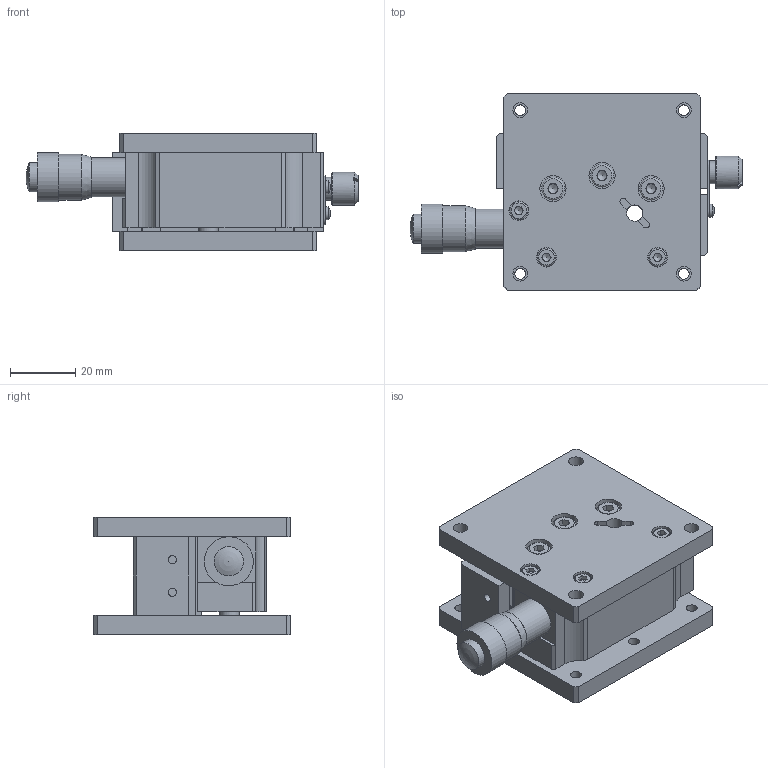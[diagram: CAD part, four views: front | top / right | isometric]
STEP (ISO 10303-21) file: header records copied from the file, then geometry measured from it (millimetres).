
FILE_DESCRIPTION (( 'STEP AP203' ), '1' );
FILE_NAME ('BLZ60L.STEP', '2024-07-08T05:41:41', ( 'Windows User' ), ( 'P R C' ), 'SwSTEP 2.0', 'SolidWorks 2024', '' );
FILE_SCHEMA (( 'CONFIG_CONTROL_DESIGN' ));
Length unit declared in the file: millimetre
Products named in the file (1): BLZ60L
Bounding box: 101.52 x 60 x 36 mm (x, y, z)
Volume: 88384.5 mm3; surface area: 46873.9 mm2
Topology: 32 solids, 32 shells, 828 faces, 1949 edges, 1242 vertices
Faces by surface type: plane 502, cylinder 206, cone 64, torus 30, bspline 22, sphere 4
Full cylindrical faces by diameter (mm): 1.6 x2, 1.65 x8, 2 x6, 2.05 x1, 2.4 x8, 2.5 x11, 2.6 x2, 2.9 x1, 2.95 x9, 3 x11, 3.3 x15, 3.4 x3, 3.8 x4, 3.9 x8, 4 x9, 4.3 x8, 4.5 x10, 5 x5, 5.1 x1, 5.5 x3, 6 x4, 6.35 x2, 7 x7, 7.5 x1, 7.7 x3, 8 x4, 8.5 x1, 9 x1, 9.5 x2, 10 x1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
Entity records: 25545 total; most frequent: CARTESIAN_POINT 7688, DIRECTION 3696, ORIENTED_EDGE 3238, EDGE_CURVE 1619, AXIS2_PLACEMENT_3D 1383, EDGE_LOOP 1227, VERTEX_POINT 1156, FACE_OUTER_BOUND 988
